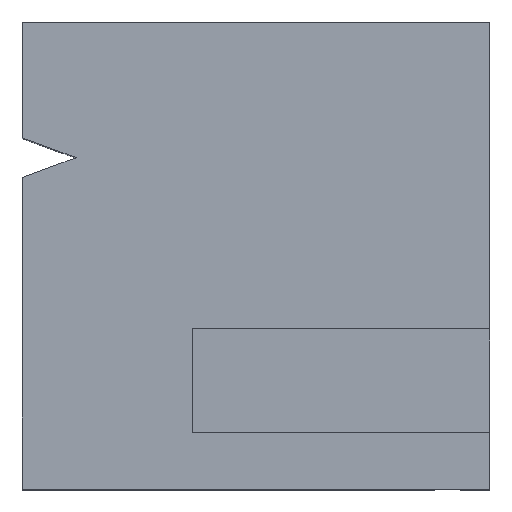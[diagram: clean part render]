
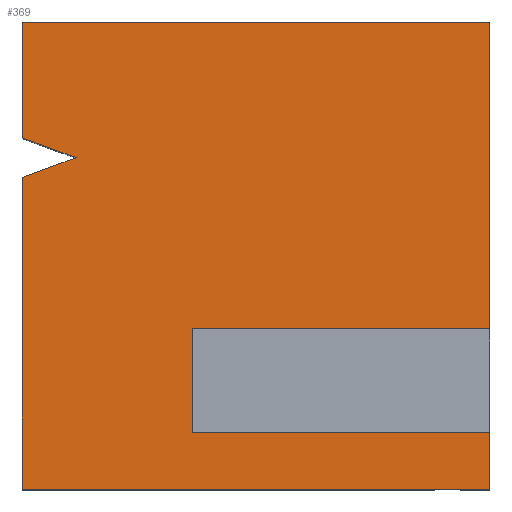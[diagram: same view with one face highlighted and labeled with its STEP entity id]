
A CAD part, top view. The second image highlights one B-rep face of the part: STEP entity #369.
In plain terms, the highlighted planar face has unit normal (0, 0, 1).
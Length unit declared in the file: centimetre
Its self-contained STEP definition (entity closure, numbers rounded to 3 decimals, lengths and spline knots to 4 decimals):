
#31 = CARTESIAN_POINT ( 'NONE',  ( 1000., 122.0473, 1000. ) ) ;
#66 = VECTOR ( 'NONE', #164, 100. ) ;
#89 = VERTEX_POINT ( 'NONE', #1814 ) ;
#102 = CARTESIAN_POINT ( 'NONE',  ( 1000., 343.1033, 1000. ) ) ;
#115 = CARTESIAN_POINT ( 'NONE',  ( 0., 1000., 1000. ) ) ;
#123 = ORIENTED_EDGE ( 'NONE', *, *, #698, .T. ) ;
#141 = LINE ( 'NONE', #115, #1395 ) ;
#164 = DIRECTION ( 'NONE',  ( 0.939, -0.345, 0. ) ) ;
#176 = DIRECTION ( 'NONE',  ( 0., 0., 1. ) ) ;
#185 = CARTESIAN_POINT ( 'NONE',  ( 1000., 1000., 1000. ) ) ;
#245 = LINE ( 'NONE', #780, #946 ) ;
#253 = VERTEX_POINT ( 'NONE', #2157 ) ;
#254 = CARTESIAN_POINT ( 'NONE',  ( 0., 0., 1000. ) ) ;
#256 = VERTEX_POINT ( 'NONE', #1283 ) ;
#289 = CARTESIAN_POINT ( 'NONE',  ( 1000., 0., 1000. ) ) ;
#303 = ORIENTED_EDGE ( 'NONE', *, *, #341, .T. ) ;
#335 = VECTOR ( 'NONE', #943, 100. ) ;
#341 = EDGE_CURVE ( 'NONE', #89, #1217, #1583, .T. ) ;
#355 = CARTESIAN_POINT ( 'NONE',  ( 0., 1000., 1000. ) ) ;
#358 = EDGE_CURVE ( 'NONE', #1023, #875, #2116, .T. ) ;
#369 = ADVANCED_FACE ( 'NONE', ( #876 ), #532, .T. ) ;
#405 = AXIS2_PLACEMENT_3D ( 'NONE', #1608, #176, #715 ) ;
#407 = DIRECTION ( 'NONE',  ( 1., 0., 0. ) ) ;
#432 = VERTEX_POINT ( 'NONE', #31 ) ;
#477 = DIRECTION ( 'NONE',  ( 1., 0., 0. ) ) ;
#532 = PLANE ( 'NONE',  #405 ) ;
#533 = CARTESIAN_POINT ( 'NONE',  ( 0., 0., 1000. ) ) ;
#542 = EDGE_CURVE ( 'NONE', #256, #1873, #1835, .T. ) ;
#575 = ORIENTED_EDGE ( 'NONE', *, *, #358, .T. ) ;
#626 = VECTOR ( 'NONE', #1437, 100. ) ;
#631 = CARTESIAN_POINT ( 'NONE',  ( 115.0636, 709.6631, 1000. ) ) ;
#679 = ORIENTED_EDGE ( 'NONE', *, *, #994, .T. ) ;
#698 = EDGE_CURVE ( 'NONE', #1460, #432, #1634, .T. ) ;
#715 = DIRECTION ( 'NONE',  ( 1., 0., 0. ) ) ;
#780 = CARTESIAN_POINT ( 'NONE',  ( 0., 1000., 1000. ) ) ;
#864 = CARTESIAN_POINT ( 'NONE',  ( 115.0636, 709.6631, 1000. ) ) ;
#875 = VERTEX_POINT ( 'NONE', #2110 ) ;
#876 = FACE_OUTER_BOUND ( 'NONE', #1858, .T. ) ;
#898 = CARTESIAN_POINT ( 'NONE',  ( 1000., 1000., 1000. ) ) ;
#932 = VECTOR ( 'NONE', #1085, 100. ) ;
#943 = DIRECTION ( 'NONE',  ( 0., -1., 0. ) ) ;
#945 = CARTESIAN_POINT ( 'NONE',  ( 363.9213, 122.0473, 1000. ) ) ;
#946 = VECTOR ( 'NONE', #1502, 100. ) ;
#994 = EDGE_CURVE ( 'NONE', #1376, #1023, #1076, .T. ) ;
#995 = VECTOR ( 'NONE', #477, 100. ) ;
#1023 = VERTEX_POINT ( 'NONE', #898 ) ;
#1076 = LINE ( 'NONE', #185, #1265 ) ;
#1085 = DIRECTION ( 'NONE',  ( 0., 1., 0. ) ) ;
#1106 = CARTESIAN_POINT ( 'NONE',  ( 363.9213, 122.0473, 1000. ) ) ;
#1125 = ORIENTED_EDGE ( 'NONE', *, *, #2196, .T. ) ;
#1150 = EDGE_CURVE ( 'NONE', #1873, #432, #1154, .T. ) ;
#1154 = LINE ( 'NONE', #945, #2227 ) ;
#1179 = CARTESIAN_POINT ( 'NONE',  ( 363.9213, 343.1033, 1000. ) ) ;
#1195 = DIRECTION ( 'NONE',  ( -0.939, -0.345, 0. ) ) ;
#1217 = VERTEX_POINT ( 'NONE', #631 ) ;
#1265 = VECTOR ( 'NONE', #1945, 100. ) ;
#1283 = CARTESIAN_POINT ( 'NONE',  ( 363.9213, 343.1033, 1000. ) ) ;
#1287 = CARTESIAN_POINT ( 'NONE',  ( 363.9213, 122.0473, 1000. ) ) ;
#1290 = ORIENTED_EDGE ( 'NONE', *, *, #1719, .T. ) ;
#1301 = ORIENTED_EDGE ( 'NONE', *, *, #2108, .T. ) ;
#1320 = ORIENTED_EDGE ( 'NONE', *, *, #1449, .T. ) ;
#1341 = VERTEX_POINT ( 'NONE', #254 ) ;
#1376 = VERTEX_POINT ( 'NONE', #102 ) ;
#1395 = VECTOR ( 'NONE', #2281, 100. ) ;
#1437 = DIRECTION ( 'NONE',  ( 1., 0., 0. ) ) ;
#1439 = VECTOR ( 'NONE', #1195, 100. ) ;
#1449 = EDGE_CURVE ( 'NONE', #256, #1376, #1882, .T. ) ;
#1460 = VERTEX_POINT ( 'NONE', #289 ) ;
#1502 = DIRECTION ( 'NONE',  ( 0., -1., 0. ) ) ;
#1583 = LINE ( 'NONE', #864, #66 ) ;
#1608 = CARTESIAN_POINT ( 'NONE',  ( 0., 0., 1000. ) ) ;
#1634 = LINE ( 'NONE', #1966, #932 ) ;
#1715 = CARTESIAN_POINT ( 'NONE',  ( 0., 667.4121, 1000. ) ) ;
#1719 = EDGE_CURVE ( 'NONE', #1341, #1460, #1812, .T. ) ;
#1764 = ORIENTED_EDGE ( 'NONE', *, *, #542, .F. ) ;
#1774 = ORIENTED_EDGE ( 'NONE', *, *, #2063, .T. ) ;
#1812 = LINE ( 'NONE', #533, #626 ) ;
#1814 = CARTESIAN_POINT ( 'NONE',  ( 0., 751.914, 1000. ) ) ;
#1835 = LINE ( 'NONE', #1287, #335 ) ;
#1858 = EDGE_LOOP ( 'NONE', ( #2166, #1764, #1320, #679, #575, #1774, #303, #1301, #1125, #1290, #123 ) ) ;
#1872 = LINE ( 'NONE', #1715, #1439 ) ;
#1873 = VERTEX_POINT ( 'NONE', #1106 ) ;
#1882 = LINE ( 'NONE', #1179, #995 ) ;
#1945 = DIRECTION ( 'NONE',  ( 0., 1., 0. ) ) ;
#1966 = CARTESIAN_POINT ( 'NONE',  ( 1000., 1000., 1000. ) ) ;
#2008 = VECTOR ( 'NONE', #2307, 100. ) ;
#2063 = EDGE_CURVE ( 'NONE', #875, #89, #245, .T. ) ;
#2108 = EDGE_CURVE ( 'NONE', #1217, #253, #1872, .T. ) ;
#2110 = CARTESIAN_POINT ( 'NONE',  ( 0., 1000., 1000. ) ) ;
#2116 = LINE ( 'NONE', #355, #2008 ) ;
#2157 = CARTESIAN_POINT ( 'NONE',  ( 0., 667.4121, 1000. ) ) ;
#2166 = ORIENTED_EDGE ( 'NONE', *, *, #1150, .F. ) ;
#2196 = EDGE_CURVE ( 'NONE', #253, #1341, #141, .T. ) ;
#2227 = VECTOR ( 'NONE', #407, 100. ) ;
#2281 = DIRECTION ( 'NONE',  ( 0., -1., 0. ) ) ;
#2307 = DIRECTION ( 'NONE',  ( -1., 0., 0. ) ) ;
